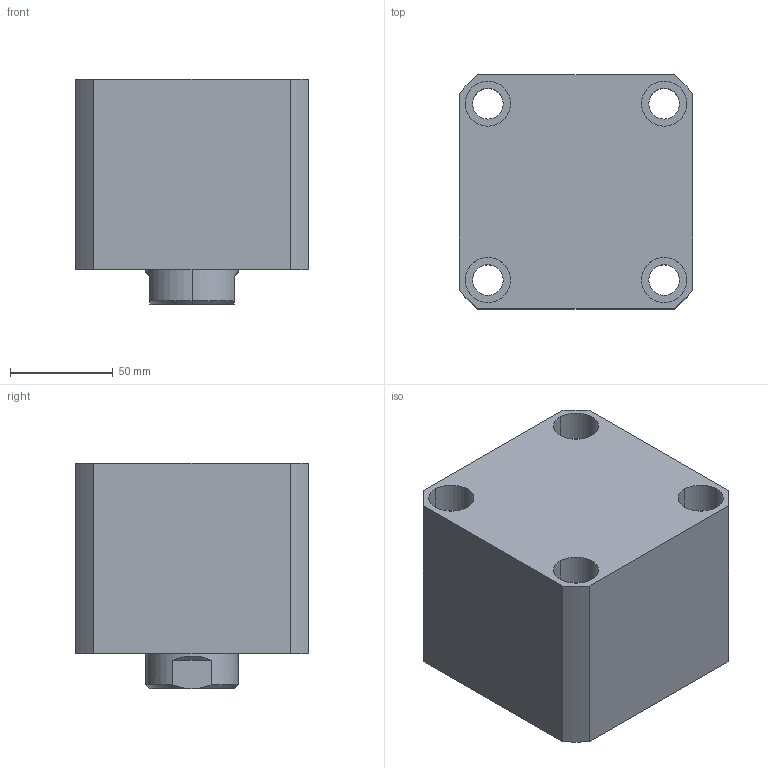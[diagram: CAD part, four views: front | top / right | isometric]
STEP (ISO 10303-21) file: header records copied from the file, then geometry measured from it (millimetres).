
FILE_DESCRIPTION (( 'STEP AP214' ), '1' );
FILE_NAME ('chtb-sdma80x15n_asm.STEP', '2018-05-29T02:26:26', ( 'Windows' ), ( 'Microsoft' ), 'SwSTEP 2.0', 'SolidWorks 2015', '' );
FILE_SCHEMA (( 'AUTOMOTIVE_DESIGN' ));
Length unit declared in the file: millimetre
Products named in the file (4): CHTB-SDMA80X15NBT; CHTB-SD80X15NHSG; CHTB-SD80QG; chtb-sdma80x15n_asm
Assembly tree (3 placements, depth 2):
  chtb-sdma80x15n_asm
    CHTB-SD80QG
    CHTB-SD80X15NHSG
    CHTB-SDMA80X15NBT
Bounding box: 114 x 114 x 110 mm (x, y, z)
Volume: 1038791.1 mm3; surface area: 165874.1 mm2
Topology: 3 solids, 3 shells, 190 faces, 516 edges, 345 vertices
Faces by surface type: cylinder 107, plane 35, torus 18, cone 16, bspline 14
Entity records: 15170 total; most frequent: CARTESIAN_POINT 10463, ORIENTED_EDGE 1020, DIRECTION 879, EDGE_CURVE 510, AXIS2_PLACEMENT_3D 368, VERTEX_POINT 345, EDGE_LOOP 227, ADVANCED_FACE 190
